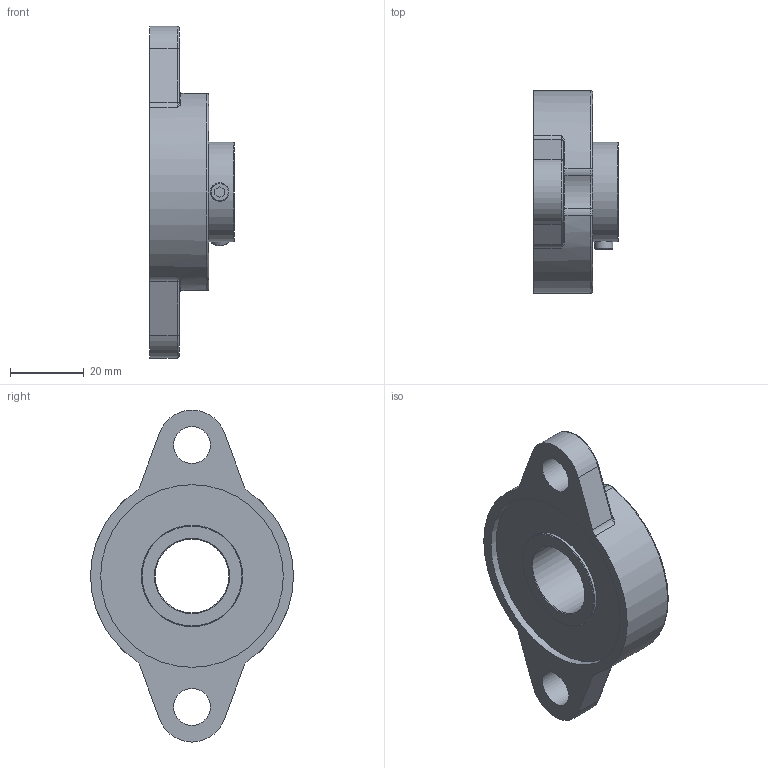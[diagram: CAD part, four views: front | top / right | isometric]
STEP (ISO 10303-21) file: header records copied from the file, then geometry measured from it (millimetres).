
FILE_DESCRIPTION(/* description */ ('FLANGE BEARING UFL004 STAINLESS'),/* implementation_level */ '2;1');
FILE_NAME(/* name */ '\\carryline.intra\privat\users\mathias\Desktop\Tillfälliga filer\500-3290.stp',/* time_stamp */ '2018-11-29T10:00:38+01:00',/* author */ ('PL'),/* organization */ ('CARRYLINE'),/* preprocessor_version */ 'ST-DEVELOPER v17',/* originating_system */ 'Autodesk Inventor 2018',/* authorisation */ '');
FILE_SCHEMA (('AUTOMOTIVE_DESIGN { 1 0 10303 214 3 1 1 }'));
Length unit declared in the file: millimetre
Products named in the file (1): 500-3290
Bounding box: 23 x 55 x 90 mm (x, y, z)
Volume: 33587.7 mm3; surface area: 11772.4 mm2
Topology: 1 solids, 1 shells, 93 faces, 216 edges, 129 vertices
Faces by surface type: plane 28, cylinder 27, torus 24, bspline 8, cone 6
Full cylindrical faces by diameter (mm): 5 x2, 10 x2, 20 x1, 27 x1, 27.5 x1, 47 x1, 49.5 x1
Entity records: 2918 total; most frequent: CARTESIAN_POINT 747, DIRECTION 473, ORIENTED_EDGE 424, EDGE_CURVE 212, AXIS2_PLACEMENT_3D 195, VERTEX_POINT 129, CIRCLE 109, EDGE_LOOP 107
